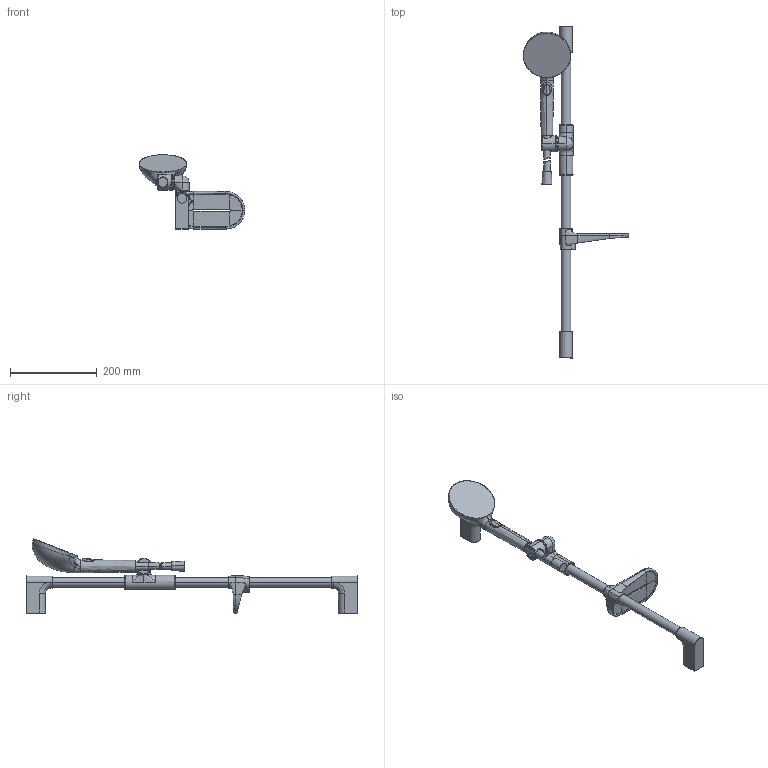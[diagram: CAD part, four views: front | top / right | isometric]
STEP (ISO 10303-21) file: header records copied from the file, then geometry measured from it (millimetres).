
FILE_DESCRIPTION (( 'STEP AP203' ), '1' );
FILE_NAME ('47160130(2024).STEP', '2024-04-11T08:00:01', ( '' ), ( '' ), 'SwSTEP 2.0', 'SolidWorks 2016', '' );
FILE_SCHEMA (( 'CONFIG_CONTROL_DESIGN' ));
Length unit declared in the file: millimetre
Products named in the file (1): 47160130(2024)
Bounding box: 243.99 x 766.42 x 172.17 mm (x, y, z)
Volume: 1212862.2 mm3; surface area: 193951.1 mm2
Topology: 11 solids, 11 shells, 398 faces, 938 edges, 562 vertices
Faces by surface type: bspline 257, plane 44, cylinder 35, cone 27, sphere 22, torus 13
Entity records: 55056 total; most frequent: CARTESIAN_POINT 47715, ORIENTED_EDGE 1874, DIRECTION 991, EDGE_CURVE 937, VERTEX_POINT 562, B_SPLINE_CURVE_WITH_KNOTS 474, AXIS2_PLACEMENT_3D 437, EDGE_LOOP 401
